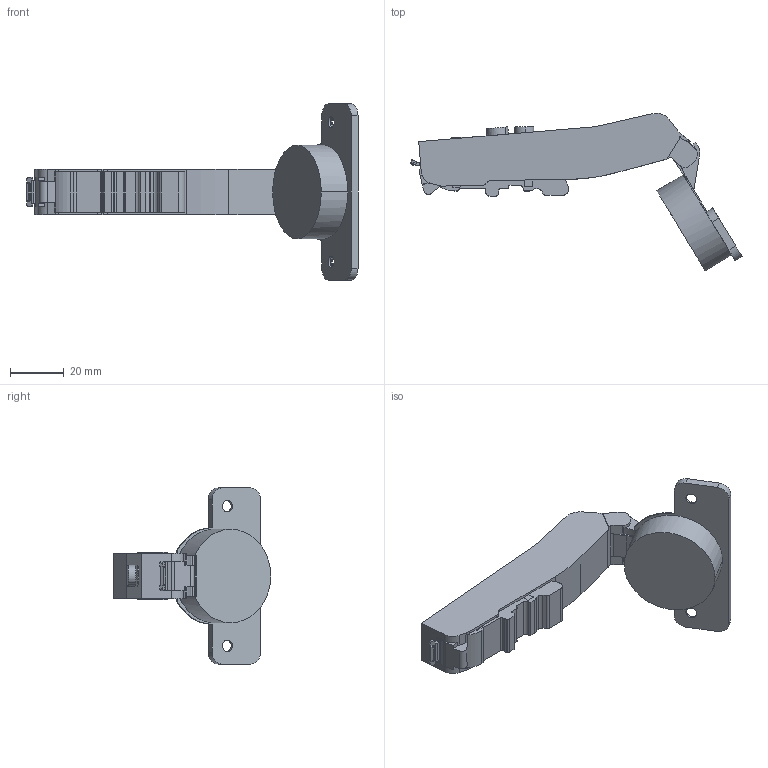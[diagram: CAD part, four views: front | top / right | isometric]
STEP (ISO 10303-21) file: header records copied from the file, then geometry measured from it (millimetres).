
FILE_DESCRIPTION (( 'STEP AP203' ), '1' );
FILE_NAME ('C81E876FAB DTC 3D OPEN.STEP', '2024-07-20T09:13:12', ( '微软用户' ), ( '微软中国' ), 'SwSTEP 2.0', 'SolidWorks 2021', '' );
FILE_SCHEMA (( 'CONFIG_CONTROL_DESIGN' ));
Length unit declared in the file: millimetre
Products named in the file (1): C81E876FAB DTC 3D OPEN
Bounding box: 123.58 x 58.62 x 65.6 mm (x, y, z)
Volume: 48535.1 mm3; surface area: 14088 mm2
Topology: 1 solids, 1 shells, 296 faces, 842 edges, 552 vertices
Faces by surface type: cylinder 133, plane 129, torus 22, cone 6, bspline 6
Entity records: 9901 total; most frequent: CARTESIAN_POINT 2016, ORIENTED_EDGE 1684, DIRECTION 1643, EDGE_CURVE 842, AXIS2_PLACEMENT_3D 580, VERTEX_POINT 552, LINE 483, VECTOR 483
